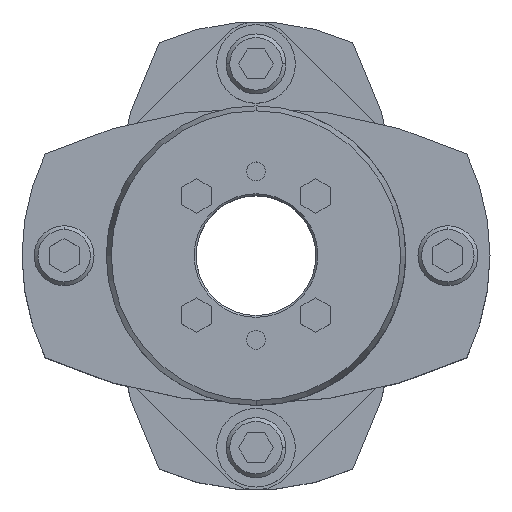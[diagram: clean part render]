
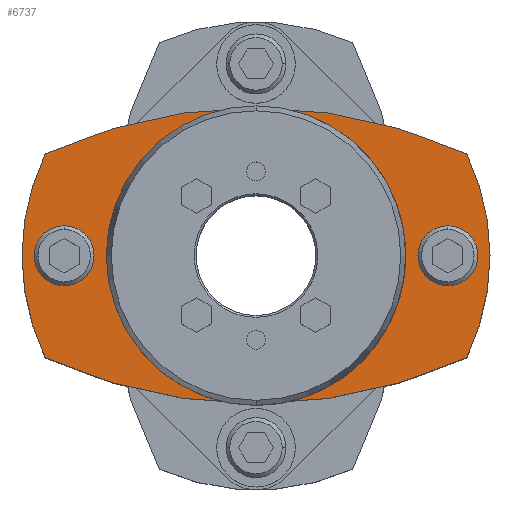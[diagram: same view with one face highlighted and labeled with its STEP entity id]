
A CAD part, top view. The second image highlights one B-rep face of the part: STEP entity #6737.
In plain terms, the highlighted planar face has unit normal (0, 0, 1).
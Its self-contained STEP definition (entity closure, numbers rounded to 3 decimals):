
#1593=CARTESIAN_POINT('',(0.,39.5,35.5));
#1594=VERTEX_POINT('',#1593);
#1610=CARTESIAN_POINT('',(-56.263,27.217,35.5));
#1611=VERTEX_POINT('',#1610);
#1618=CARTESIAN_POINT('',(0.,-95.5,35.5));
#1619=DIRECTION('',(0.0,0.0,-1.0));
#1620=DIRECTION('',(0.0,1.0,0.0));
#1621=AXIS2_PLACEMENT_3D('',#1618,#1619,#1620);
#1622=CIRCLE('',#1621,135.);
#1623=EDGE_CURVE('',#1611,#1594,#1622,.T.);
#1633=CARTESIAN_POINT('',(0.,-39.5,35.5));
#1634=VERTEX_POINT('',#1633);
#1643=CARTESIAN_POINT('',(-56.263,-27.217,35.5));
#1644=VERTEX_POINT('',#1643);
#1645=CARTESIAN_POINT('',(0.,95.5,35.5));
#1646=DIRECTION('',(0.0,0.0,-1.0));
#1647=DIRECTION('',(0.0,1.0,0.0));
#1648=AXIS2_PLACEMENT_3D('',#1645,#1646,#1647);
#1649=CIRCLE('',#1648,135.);
#1650=EDGE_CURVE('',#1634,#1644,#1649,.T.);
#1899=CARTESIAN_POINT('',(0.,27.5,35.5));
#1900=VERTEX_POINT('',#1899);
#1950=CARTESIAN_POINT('',(0.,-27.5,35.5));
#1951=VERTEX_POINT('',#1950);
#1958=CARTESIAN_POINT('',(0.,0.,35.5));
#1959=DIRECTION('',(0.0,0.0,-1.0));
#1960=DIRECTION('',(0.0,1.0,0.0));
#1961=AXIS2_PLACEMENT_3D('',#1958,#1959,#1960);
#1962=CIRCLE('',#1961,27.5);
#1963=EDGE_CURVE('',#1900,#1951,#1962,.T.);
#2057=CARTESIAN_POINT('',(-51.25,8.,35.5));
#2058=VERTEX_POINT('',#2057);
#2067=CARTESIAN_POINT('',(-51.25,-8.,35.5));
#2068=VERTEX_POINT('',#2067);
#2069=CARTESIAN_POINT('',(-51.25,0.,35.5));
#2070=DIRECTION('',(0.0,0.0,-1.0));
#2071=DIRECTION('',(0.0,1.0,0.0));
#2072=AXIS2_PLACEMENT_3D('',#2069,#2070,#2071);
#2073=CIRCLE('',#2072,8.0);
#2074=EDGE_CURVE('',#2068,#2058,#2073,.T.);
#2131=CARTESIAN_POINT('',(51.25,8.,35.5));
#2132=VERTEX_POINT('',#2131);
#2141=CARTESIAN_POINT('',(51.25,-8.,35.5));
#2142=VERTEX_POINT('',#2141);
#2143=CARTESIAN_POINT('',(51.25,0.,35.5));
#2144=DIRECTION('',(0.0,0.0,-1.0));
#2145=DIRECTION('',(0.0,1.0,0.0));
#2146=AXIS2_PLACEMENT_3D('',#2143,#2144,#2145);
#2147=CIRCLE('',#2146,8.0);
#2148=EDGE_CURVE('',#2142,#2132,#2147,.T.);
#5280=CARTESIAN_POINT('',(51.25,0.,35.5));
#5281=DIRECTION('',(0.0,0.0,-1.0));
#5282=DIRECTION('',(0.0,1.0,0.0));
#5283=AXIS2_PLACEMENT_3D('',#5280,#5281,#5282);
#5284=CIRCLE('',#5283,8.0);
#5285=EDGE_CURVE('',#2132,#2142,#5284,.T.);
#5340=CARTESIAN_POINT('',(-51.25,0.,35.5));
#5341=DIRECTION('',(0.0,0.0,-1.0));
#5342=DIRECTION('',(0.0,1.0,0.0));
#5343=AXIS2_PLACEMENT_3D('',#5340,#5341,#5342);
#5344=CIRCLE('',#5343,8.0);
#5345=EDGE_CURVE('',#2058,#2068,#5344,.T.);
#6410=CARTESIAN_POINT('',(0.,0.,35.5));
#6411=DIRECTION('',(0.0,0.0,-1.0));
#6412=DIRECTION('',(0.0,1.0,0.0));
#6413=AXIS2_PLACEMENT_3D('',#6410,#6411,#6412);
#6414=CIRCLE('',#6413,27.5);
#6415=EDGE_CURVE('',#1951,#1900,#6414,.T.);
#6631=CARTESIAN_POINT('',(56.263,27.217,35.5));
#6632=VERTEX_POINT('',#6631);
#6633=CARTESIAN_POINT('',(56.263,-27.217,35.5));
#6634=VERTEX_POINT('',#6633);
#6635=CARTESIAN_POINT('',(0.,0.,35.5));
#6636=DIRECTION('',(0.0,0.0,-1.0));
#6637=DIRECTION('',(0.0,1.0,0.0));
#6638=AXIS2_PLACEMENT_3D('',#6635,#6636,#6637);
#6639=CIRCLE('',#6638,62.5);
#6640=EDGE_CURVE('',#6632,#6634,#6639,.T.);
#6666=CARTESIAN_POINT('',(0.,95.5,35.5));
#6667=DIRECTION('',(0.0,0.0,-1.0));
#6668=DIRECTION('',(0.0,1.0,0.0));
#6669=AXIS2_PLACEMENT_3D('',#6666,#6667,#6668);
#6670=CIRCLE('',#6669,135.);
#6671=EDGE_CURVE('',#6634,#1634,#6670,.T.);
#6681=CARTESIAN_POINT('',(0.,0.,35.5));
#6682=DIRECTION('',(0.0,0.0,-1.0));
#6683=DIRECTION('',(0.0,1.0,0.0));
#6684=AXIS2_PLACEMENT_3D('',#6681,#6682,#6683);
#6685=CIRCLE('',#6684,62.5);
#6686=EDGE_CURVE('',#1644,#1611,#6685,.T.);
#6700=CARTESIAN_POINT('',(0.,-95.5,35.5));
#6701=DIRECTION('',(0.0,0.0,-1.0));
#6702=DIRECTION('',(0.0,1.0,0.0));
#6703=AXIS2_PLACEMENT_3D('',#6700,#6701,#6702);
#6704=CIRCLE('',#6703,135.);
#6705=EDGE_CURVE('',#1594,#6632,#6704,.T.);
#6712=CARTESIAN_POINT('',(0.,0.,35.5));
#6713=DIRECTION('',(0.0,0.0,1.0));
#6714=DIRECTION('',(0.0,1.0,0.0));
#6715=AXIS2_PLACEMENT_3D('',#6712,#6713,#6714);
#6716=PLANE('',#6715);
#6717=ORIENTED_EDGE('',*,*,#6640,.F.);
#6718=ORIENTED_EDGE('',*,*,#6705,.F.);
#6719=ORIENTED_EDGE('',*,*,#1623,.F.);
#6720=ORIENTED_EDGE('',*,*,#6686,.F.);
#6721=ORIENTED_EDGE('',*,*,#1650,.F.);
#6722=ORIENTED_EDGE('',*,*,#6671,.F.);
#6723=EDGE_LOOP('',(#6717,#6718,#6719,#6720,#6721,#6722));
#6724=FACE_OUTER_BOUND('',#6723,.T.);
#6725=ORIENTED_EDGE('',*,*,#5285,.T.);
#6726=ORIENTED_EDGE('',*,*,#2148,.T.);
#6727=EDGE_LOOP('',(#6725,#6726));
#6728=FACE_BOUND('',#6727,.T.);
#6729=ORIENTED_EDGE('',*,*,#5345,.T.);
#6730=ORIENTED_EDGE('',*,*,#2074,.T.);
#6731=EDGE_LOOP('',(#6729,#6730));
#6732=FACE_BOUND('',#6731,.T.);
#6733=ORIENTED_EDGE('',*,*,#1963,.T.);
#6734=ORIENTED_EDGE('',*,*,#6415,.T.);
#6735=EDGE_LOOP('',(#6733,#6734));
#6736=FACE_BOUND('',#6735,.T.);
#6737=ADVANCED_FACE('',(#6724,#6728,#6732,#6736),#6716,.T.);
